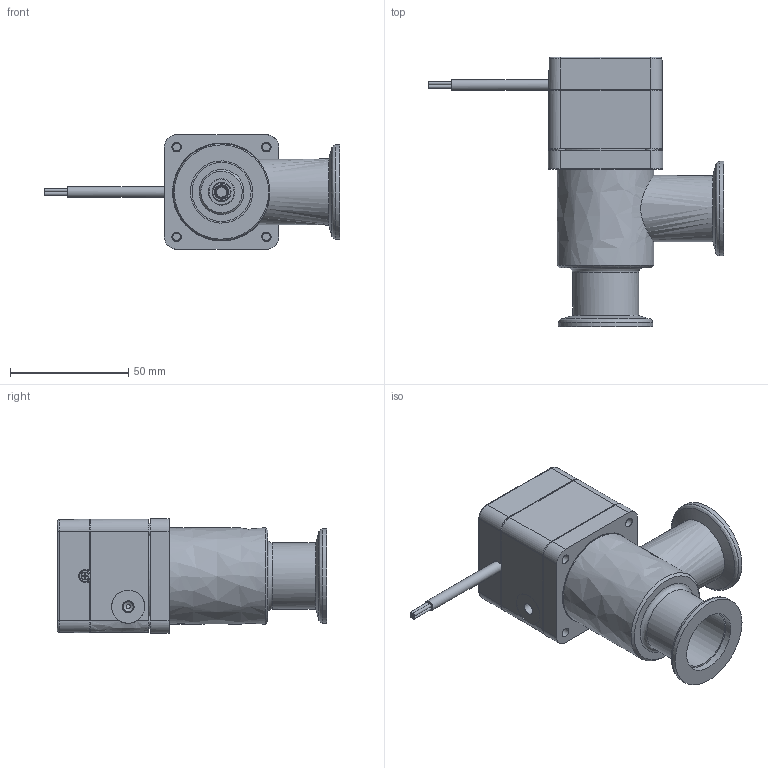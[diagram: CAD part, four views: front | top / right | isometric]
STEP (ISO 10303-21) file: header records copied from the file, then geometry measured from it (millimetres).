
FILE_DESCRIPTION((''),'2;1');
FILE_NAME('C:\TEMP\IDEAS\325547.stp','2006-09-19T15:30:47',('User'),( 'SDRC'),'I-DEAS Master Series 9','UNIX','Yes');
FILE_SCHEMA(('CONFIG_CONTROL_DESIGN'));
Length unit declared in the file: millimetre
Assembly tree (17 placements, depth 0):
Bounding box: 125 x 114 x 48.4 mm (x, y, z)
Volume: 82984.7 mm3; surface area: 66900.4 mm2
Topology: 23 solids, 23 shells, 606 faces, 1469 edges, 948 vertices
Faces by surface type: bspline 606
Entity records: 18726 total; most frequent: CARTESIAN_POINT 9604, ORIENTED_EDGE 2446, EDGE_CURVE 1223, VERTEX_POINT 790, EDGE_LOOP 589, FACE_OUTER_BOUND 496, ADVANCED_FACE 496, QUASI_UNIFORM_CURVE 461
